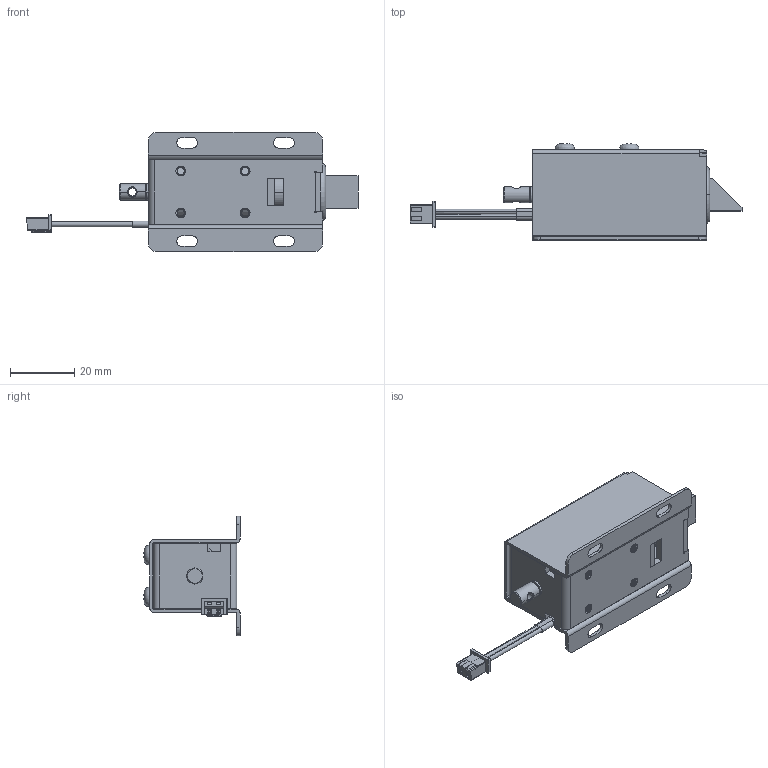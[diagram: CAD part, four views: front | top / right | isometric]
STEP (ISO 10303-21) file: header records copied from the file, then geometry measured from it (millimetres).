
FILE_DESCRIPTION((''),'2;1');
FILE_NAME('LY03F_ASM','2025-04-24T10:50:42',('PRIME'),(''),'CREO PARAMETRIC BY PTC INC, 2023073','CREO PARAMETRIC BY PTC INC, 2023073','');
FILE_SCHEMA(('CONFIG_CONTROL_DESIGN','SHAPE_APPEARANCE_LAYERS_GROUPS'));
Length unit declared in the file: millimetre
Products named in the file (11): A-LY03B-00; C-LY03B-000; B-LY03B-00; D-LY03B-000; E-LY03B-00; F-LY03B-00; LY03F-0001; 0001; H-LY03B-00; M3-600; LY03F_ASM
Assembly tree (11 placements, depth 2):
  LY03F_ASM
    A-LY03B-00
    C-LY03B-000
    B-LY03B-00
    D-LY03B-000
    E-LY03B-00
    F-LY03B-00
    LY03F-0001
    0001
    H-LY03B-00
    M3-600  x2
Bounding box: 103 x 29.8 x 37 mm (x, y, z)
Volume: 17014.7 mm3; surface area: 27248.9 mm2
Topology: 12 solids, 13 shells, 578 faces, 1505 edges, 964 vertices
Faces by surface type: plane 262, cylinder 212, bspline 52, torus 40, cone 6, revolution 4, sphere 2
Entity records: 27094 total; most frequent: CARTESIAN_POINT 8402, ORIENTED_EDGE 2708, DIRECTION 2585, EDGE_CURVE 1356, PRESENTATION_STYLE_ASSIGNMENT 1074, STYLED_ITEM 942, AXIS2_PLACEMENT_3D 907, VERTEX_POINT 870
